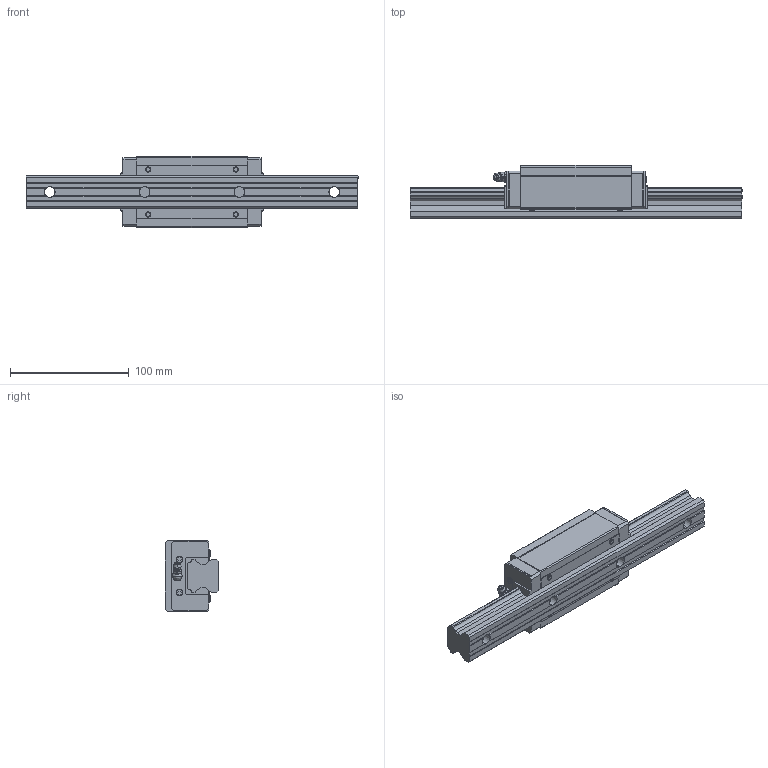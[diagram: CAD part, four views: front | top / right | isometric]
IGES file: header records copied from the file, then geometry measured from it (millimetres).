
Start section: SolidWorks IGES file using analytic representation for surfaces
Global section: file name: D:\Qsync\EOS Design B.V\Projecten\LM Systems\Models HSV\FINISHED\HSR30LRSSC.IGS; native system: SolidWorks 2016; preprocessor: SolidWorks 2016; author: EOS; date: 160329.132600; units: millimetre
Bounding box: 280 x 45 x 60 mm (x, y, z)
Surface area: 68544.9 mm2 (no closed solid volume)
Topology: 0 solids, 0 shells, 317 faces, 3222 edges, 3206 vertices
Faces by surface type: bspline 225, revolution 92
